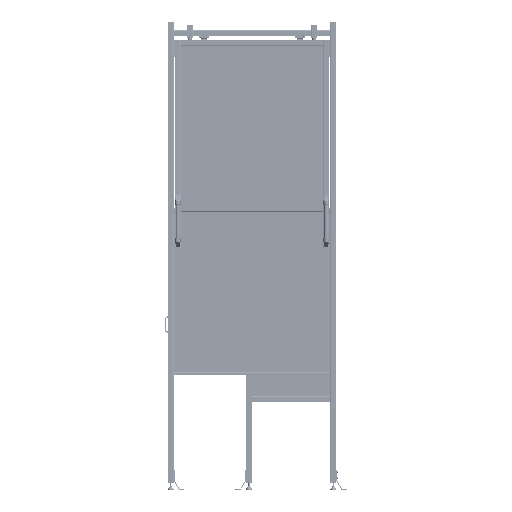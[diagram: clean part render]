
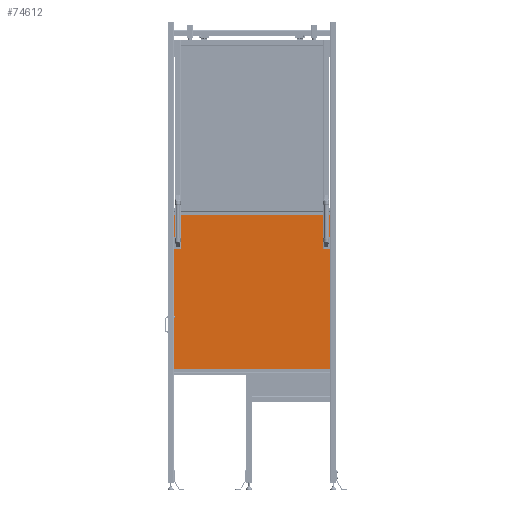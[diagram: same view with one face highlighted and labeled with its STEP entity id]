
A CAD part, front view. The second image highlights one B-rep face of the part: STEP entity #74612.
In plain terms, the highlighted planar face has unit normal (0, -1, 0) as drawn and (0, 0, -1) by its records, which use the part's own axes.
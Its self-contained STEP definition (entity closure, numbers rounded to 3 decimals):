
#5832=CIRCLE('',#84614,0.098);
#5836=CIRCLE('',#84620,0.098);
#5837=CIRCLE('',#84623,0.098);
#5838=CIRCLE('',#84626,0.098);
#11238=FACE_OUTER_BOUND('',#15637,.T.);
#15637=EDGE_LOOP('',(#67310,#67311,#67312,#67313,#67314,#67315,#67316,#67317,
#67318,#67319));
#22286=LINE('',#135352,#29042);
#22292=LINE('',#135364,#29048);
#22294=LINE('',#135367,#29050);
#22301=LINE('',#135393,#29057);
#22304=LINE('',#135401,#29060);
#22306=LINE('',#135407,#29062);
#29042=VECTOR('',#105703,0.394);
#29048=VECTOR('',#105711,0.394);
#29050=VECTOR('',#105715,0.394);
#29057=VECTOR('',#105742,0.394);
#29060=VECTOR('',#105751,0.394);
#29062=VECTOR('',#105759,0.394);
#36100=VERTEX_POINT('',#135348);
#36102=VERTEX_POINT('',#135351);
#36105=VERTEX_POINT('',#135358);
#36107=VERTEX_POINT('',#135362);
#36109=VERTEX_POINT('',#135371);
#36115=VERTEX_POINT('',#135387);
#36116=VERTEX_POINT('',#135391);
#36117=VERTEX_POINT('',#135395);
#36118=VERTEX_POINT('',#135399);
#36119=VERTEX_POINT('',#135403);
#46569=EDGE_CURVE('',#36100,#36102,#22286,.T.);
#46575=EDGE_CURVE('',#36105,#36107,#22292,.T.);
#46577=EDGE_CURVE('',#36102,#36107,#22294,.T.);
#46579=EDGE_CURVE('',#36105,#36109,#5832,.T.);
#46588=EDGE_CURVE('',#36115,#36100,#5836,.T.);
#46590=EDGE_CURVE('',#36115,#36116,#22301,.T.);
#46592=EDGE_CURVE('',#36117,#36116,#5837,.T.);
#46594=EDGE_CURVE('',#36117,#36118,#22304,.T.);
#46596=EDGE_CURVE('',#36119,#36118,#5838,.T.);
#46597=EDGE_CURVE('',#36119,#36109,#22306,.T.);
#67310=ORIENTED_EDGE('',*,*,#46579,.F.);
#67311=ORIENTED_EDGE('',*,*,#46575,.T.);
#67312=ORIENTED_EDGE('',*,*,#46577,.F.);
#67313=ORIENTED_EDGE('',*,*,#46569,.F.);
#67314=ORIENTED_EDGE('',*,*,#46588,.F.);
#67315=ORIENTED_EDGE('',*,*,#46590,.T.);
#67316=ORIENTED_EDGE('',*,*,#46592,.F.);
#67317=ORIENTED_EDGE('',*,*,#46594,.T.);
#67318=ORIENTED_EDGE('',*,*,#46596,.F.);
#67319=ORIENTED_EDGE('',*,*,#46597,.T.);
#70771=PLANE('',#84628);
#74612=ADVANCED_FACE('',(#11238),#70771,.F.);
#84614=AXIS2_PLACEMENT_3D('',#135372,#105720,#105721);
#84620=AXIS2_PLACEMENT_3D('',#135389,#105737,#105738);
#84623=AXIS2_PLACEMENT_3D('',#135397,#105746,#105747);
#84626=AXIS2_PLACEMENT_3D('',#135405,#105755,#105756);
#84628=AXIS2_PLACEMENT_3D('',#135408,#105760,#105761);
#105703=DIRECTION('',(0.,1.,0.));
#105711=DIRECTION('',(0.,1.,0.));
#105715=DIRECTION('',(-1.,0.,0.));
#105720=DIRECTION('center_axis',(0.,0.,1.));
#105721=DIRECTION('ref_axis',(-0.707,0.707,0.));
#105737=DIRECTION('center_axis',(0.,0.,1.));
#105738=DIRECTION('ref_axis',(0.707,0.707,0.));
#105742=DIRECTION('',(0.,-1.,0.));
#105746=DIRECTION('center_axis',(0.,0.,1.));
#105747=DIRECTION('ref_axis',(0.707,-0.707,0.));
#105751=DIRECTION('',(-1.,0.,0.));
#105755=DIRECTION('center_axis',(0.,0.,1.));
#105756=DIRECTION('ref_axis',(-0.707,-0.707,0.));
#105759=DIRECTION('',(0.,1.,0.));
#105760=DIRECTION('center_axis',(0.,0.,1.));
#105761=DIRECTION('ref_axis',(1.,0.,0.));
#135348=CARTESIAN_POINT('',(23.425,22.283,0.));
#135351=CARTESIAN_POINT('',(23.425,24.283,0.));
#135352=CARTESIAN_POINT('',(23.425,22.283,0.));
#135358=CARTESIAN_POINT('',(-23.425,22.283,0.));
#135362=CARTESIAN_POINT('',(-23.425,24.283,0.));
#135364=CARTESIAN_POINT('',(-23.425,22.283,0.));
#135367=CARTESIAN_POINT('',(23.425,24.283,0.));
#135371=CARTESIAN_POINT('',(-23.524,22.185,0.));
#135372=CARTESIAN_POINT('Origin',(-23.425,22.185,0.));
#135387=CARTESIAN_POINT('',(23.524,22.185,0.));
#135389=CARTESIAN_POINT('Origin',(23.425,22.185,0.));
#135391=CARTESIAN_POINT('',(23.524,-22.185,0.));
#135393=CARTESIAN_POINT('',(23.524,22.283,0.));
#135395=CARTESIAN_POINT('',(23.425,-22.283,0.));
#135397=CARTESIAN_POINT('Origin',(23.425,-22.185,0.));
#135399=CARTESIAN_POINT('',(-23.425,-22.283,0.));
#135401=CARTESIAN_POINT('',(23.524,-22.283,0.));
#135403=CARTESIAN_POINT('',(-23.524,-22.185,0.));
#135405=CARTESIAN_POINT('Origin',(-23.425,-22.185,0.));
#135407=CARTESIAN_POINT('',(-23.524,-22.283,0.));
#135408=CARTESIAN_POINT('Origin',(0.,0.,
0.));
